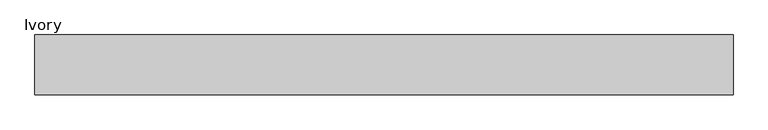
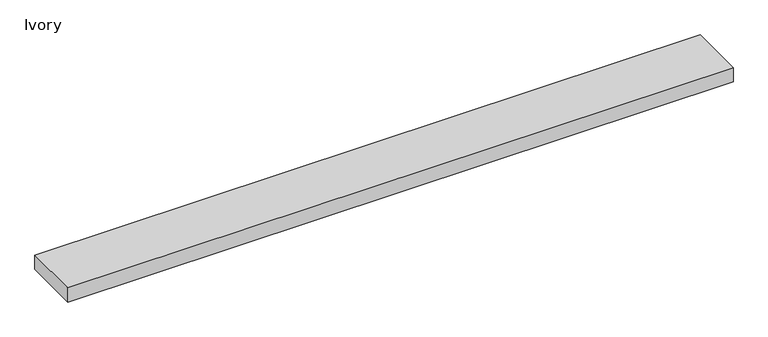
"""IFC4 building model written with IfcOpenShell, lengths in millimetres: proxy geometry, Raceway-5500_Series-Wiremold-Multi_Channel : Ivory."""

import ifcopenshell
import ifcopenshell.guid

model = None  # the IFC model being written
_history = None  # IfcOwnerHistory: only IFC2X3 demands one
_inside = {}  # id of a spatial element -> (the spatial element, [elements in it])
_under = {}  # id of a project, library or spatial element -> (it, [spatial elements below it])
_declared = {}  # id of a project -> (the project, [libraries it declares])
_typed = {}  # id of a type object -> (the type object, [elements of that type])
_made_of = {}  # id of a material, layer set ... -> (it, [elements and type objects made of it])


def new_model(schema):
    """Start an empty IFC model of exactly this schema.

    Asked for "IFC4X3", IfcOpenShell would pick the latest addendum, in which some entities
    have other attributes; the version numbers below select the first issue.
    IFC2X3 requires an IfcOwnerHistory on every rooted entity: one is made here for all.
    """
    global model, _history
    if schema == "IFC4X3":
        model = ifcopenshell.file(schema_version=(4, 3, 0, 0))
    else:
        model = ifcopenshell.file(schema=schema)
    _inside.clear()
    _under.clear()
    _declared.clear()
    _typed.clear()
    _made_of.clear()
    _history = None
    if model.schema == "IFC2X3":
        org = make("IfcOrganization", Name="unknown")
        user = make(
            "IfcPersonAndOrganization",
            ThePerson=make("IfcPerson", FamilyName="unknown"),
            TheOrganization=org,
        )
        app = make(
            "IfcApplication",
            ApplicationDeveloper=org,
            Version="unknown",
            ApplicationFullName="unknown",
            ApplicationIdentifier="unknown",
        )
        _history = make(
            "IfcOwnerHistory",
            OwningUser=user,
            OwningApplication=app,
            ChangeAction="ADDED",
            CreationDate=0,
        )
    return model


def make(cls, **values):
    """One entity of the class cls with the attributes given. An attribute that is None is left unset."""
    return model.create_entity(
        cls, **{name: value for name, value in values.items() if value is not None}
    )


def rooted(cls, **values):
    """An entity with a GlobalId (a new one), such as an element, a storey or a relation."""
    return make(cls, GlobalId=ifcopenshell.guid.new(), OwnerHistory=_history, **values)


def si_unit(unit_type, name, prefix=None):
    """IfcSIUnit, for example si_unit("LENGTHUNIT", "METRE", prefix="MILLI")."""
    return make("IfcSIUnit", UnitType=unit_type, Prefix=prefix, Name=name)


def assignment(units):
    """IfcUnitAssignment: the units of a project."""
    return None if units is None else make("IfcUnitAssignment", Units=units)


def point(xyz):
    """IfcCartesianPoint."""
    return None if xyz is None else make("IfcCartesianPoint", Coordinates=xyz)


def direction(xyz):
    """IfcDirection."""
    return None if xyz is None else make("IfcDirection", DirectionRatios=xyz)


def frame(location, z_axis=None, x_axis=None):
    """IfcAxis2Placement3D, a coordinate frame: its origin and axes. An axis left out is left unset."""
    return make(
        "IfcAxis2Placement3D",
        Location=point(location),
        Axis=direction(z_axis),
        RefDirection=direction(x_axis),
    )


def origin():
    """The frame at (0, 0, 0) with its axes left unset."""
    return frame((0.0, 0.0, 0.0))


def origin_with_axes():
    """The frame at (0, 0, 0) with the z axis (0, 0, 1) and the x axis (1, 0, 0) written out."""
    return frame((0.0, 0.0, 0.0), z_axis=(0.0, 0.0, 1.0), x_axis=(1.0, 0.0, 0.0))


def place(relative_to, where):
    """IfcLocalPlacement: puts the frame where relative to a parent placement (None: the world)."""
    return make(
        "IfcLocalPlacement", PlacementRelTo=relative_to, RelativePlacement=where
    )


def context(
    kind, dimensions, precision=None, world=None, true_north=None, identifier=None
):
    """IfcGeometricRepresentationContext, for example the 3D "Model" context."""
    return make(
        "IfcGeometricRepresentationContext",
        ContextIdentifier=identifier,
        ContextType=kind,
        CoordinateSpaceDimension=dimensions,
        Precision=precision,
        WorldCoordinateSystem=world,
        TrueNorth=true_north,
    )


def project(units=None, contexts=None):
    """IfcProject with its units and contexts."""
    return rooted(
        "IfcProject",
        Name="project",
        RepresentationContexts=contexts,
        UnitsInContext=assignment(units),
    )


def spatial(cls, under=None, at=None, **own):
    """A site, building, storey or space (cls), placed at a placement, below another one or the project."""
    s = rooted(cls, ObjectPlacement=at, **own)
    if under is not None:
        _under.setdefault(under.id(), (under, []))[1].append(s)
    return s


def polyline(points):
    """IfcPolyline through the points."""
    return make("IfcPolyline", Points=[point(p) for p in points])


def outline(outer, holes=None, kind="AREA"):
    """IfcArbitraryClosedProfileDef: a profile drawn as a closed curve; with holes, ...WithVoids."""
    if holes is None:
        return make("IfcArbitraryClosedProfileDef", ProfileType=kind, OuterCurve=outer)
    return make(
        "IfcArbitraryProfileDefWithVoids",
        ProfileType=kind,
        OuterCurve=outer,
        InnerCurves=holes,
    )


def extrude(swept, where, along, depth):
    """IfcExtrudedAreaSolid: the profile swept, set in the frame where, extruded along a direction by depth."""
    return make(
        "IfcExtrudedAreaSolid",
        SweptArea=swept,
        Position=where,
        ExtrudedDirection=direction(along),
        Depth=depth,
    )


def shape(context_of_items, identifier, shape_type, items):
    """IfcShapeRepresentation: the items that make up one representation, for example the "Body"."""
    return make(
        "IfcShapeRepresentation",
        ContextOfItems=context_of_items,
        RepresentationIdentifier=identifier,
        RepresentationType=shape_type,
        Items=items,
    )


def source(mapping_origin, context_of_items, identifier, shape_type, items):
    """IfcRepresentationMap: a shape defined once, which mapped items show again and again."""
    return make(
        "IfcRepresentationMap",
        MappingOrigin=mapping_origin,
        MappedRepresentation=shape(context_of_items, identifier, shape_type, items),
    )


def transform(
    local_origin,
    x_axis=None,
    y_axis=None,
    z_axis=None,
    scale=None,
    scale2=None,
    scale3=None,
    uniform=True,
):
    """IfcCartesianTransformationOperator3D, or its non-uniform kind. x_axis, y_axis, z_axis: its Axis1, 2, 3."""
    if uniform:
        return make(
            "IfcCartesianTransformationOperator3D",
            Axis1=direction(x_axis),
            Axis2=direction(y_axis),
            LocalOrigin=point(local_origin),
            Scale=scale,
            Axis3=direction(z_axis),
        )
    return make(
        "IfcCartesianTransformationOperator3DnonUniform",
        Axis1=direction(x_axis),
        Axis2=direction(y_axis),
        LocalOrigin=point(local_origin),
        Scale=scale,
        Axis3=direction(z_axis),
        Scale2=scale2,
        Scale3=scale3,
    )


def mapped(mapping_source, mapping_target):
    """IfcMappedItem: shows the shape of a source again, moved by a transform."""
    return make(
        "IfcMappedItem", MappingSource=mapping_source, MappingTarget=mapping_target
    )


def made_of(thing, what):
    """Note that an element or type object is made of a material, layer set ...; save() writes the relation."""
    if what is not None:
        _made_of.setdefault(what.id(), (what, []))[1].append(thing)
    return thing


def element(
    cls,
    number,
    at=None,
    inside=None,
    cuts=None,
    type_object=None,
    material=None,
    context=None,
    identifier="Body",
    shape_type=None,
    held_by="IfcProductDefinitionShape",
    body=None,
    shapes=None,
    **own,
):
    """One element of the class cls, such as IfcWall. Its Tag is "e" and its number.

    at: its placement. inside: the storey or other place that contains it. cuts: it is an
    opening in that element (IfcRelVoidsElement). A single representation is given by context,
    identifier, shape_type and body (its items); several are given by shapes. held_by: the class
    of the entity that holds the representations. save() writes the other relations.
    """
    e = rooted(cls, Tag="e%d" % number, ObjectPlacement=at, **own)
    if body is not None:
        shapes = [shape(context, identifier, shape_type, body)]
    if shapes is not None:
        e.Representation = make(held_by, Representations=shapes)
    if inside is not None:
        _inside.setdefault(inside.id(), (inside, []))[1].append(e)
    if cuts is not None:
        rooted(
            "IfcRelVoidsElement", RelatingBuildingElement=cuts, RelatedOpeningElement=e
        )
    if type_object is not None:
        _typed.setdefault(type_object.id(), (type_object, []))[1].append(e)
    return made_of(e, material)


def aggregate(whole, parts):
    """IfcRelAggregates: a whole, such as a stair, and the parts it consists of."""
    return rooted("IfcRelAggregates", RelatingObject=whole, RelatedObjects=parts)


def save(model, path):
    """Write the relations noted so far, then the file.

    IfcRelAggregates (storeys below a building ...), IfcRelContainedInSpatialStructure (elements
    in a storey), IfcRelDefinesByType, IfcRelAssociatesMaterial and IfcRelDeclares: one each for
    every whole, place, type object, material and project.
    """
    for whole, parts in _under.values():
        aggregate(whole, parts)
    for where, things in _inside.values():
        rooted(
            "IfcRelContainedInSpatialStructure",
            RelatedElements=things,
            RelatingStructure=where,
        )
    for kind, things in _typed.values():
        rooted("IfcRelDefinesByType", RelatedObjects=things, RelatingType=kind)
    for what, things in _made_of.values():
        rooted("IfcRelAssociatesMaterial", RelatedObjects=things, RelatingMaterial=what)
    for by, libraries in _declared.values():
        rooted("IfcRelDeclares", RelatingContext=by, RelatedDefinitions=libraries)
    model.write(path)


def ivory_f053f690(model_context):
    return source(origin(), model_context, "Body", "SweptSolid", [
        extrude(outline(polyline([(1981.2, 84.9376), (1981.2, -84.9376), (0.0, -84.9376), (0.0, 84.9376), (1981.2, 84.9376)])), origin_with_axes(), (0.0, 0.0, 1.0), 44.45),
    ])


if __name__ == "__main__":
    model = new_model("IFC4")
    model_context = context("Model", 3, world=origin())
    ifc_project = project(units=[si_unit("LENGTHUNIT", "METRE", prefix="MILLI")], contexts=[model_context])
    site = spatial("IfcSite", under=ifc_project)
    building = spatial("IfcBuilding", under=site)
    placement = place(None, origin())
    ivory_shape = ivory_f053f690(model_context)
    element("IfcBuildingElementProxy", 1, Name="Raceway-5500_Series-Wiremold-Multi_Channel : Ivory", ObjectType="Raceway-5500_Series-Wiremold-Multi_Channel : Ivory", at=placement, inside=building, context=model_context, shape_type="MappedRepresentation", body=[
        mapped(ivory_shape, transform((0.0, 0.0, 0.0), x_axis=(1.0, 0.0, 0.0), y_axis=(0.0, 1.0, 0.0), z_axis=(0.0, 0.0, 1.0))),
    ])
    save(model, "model.ifc")
